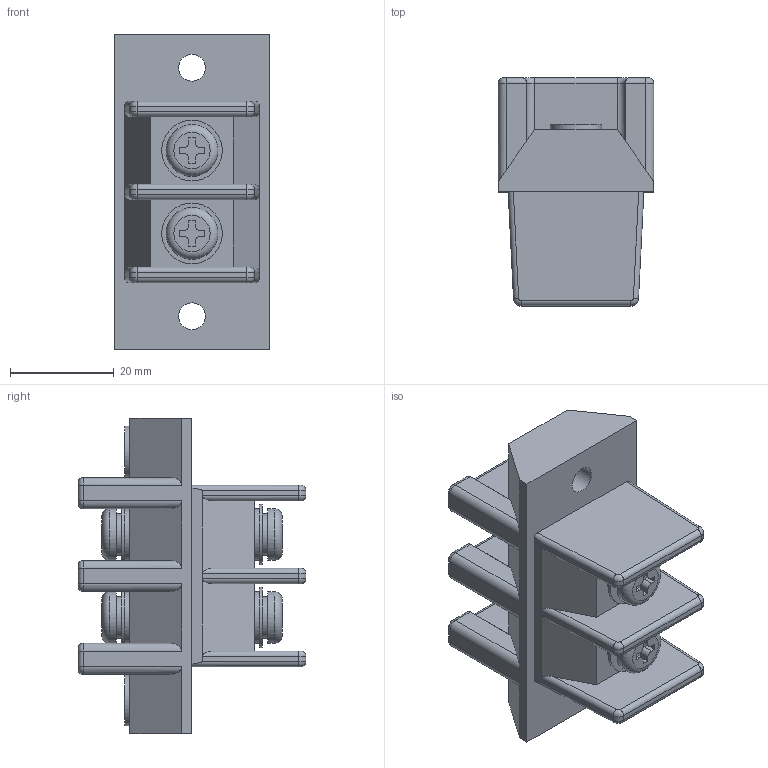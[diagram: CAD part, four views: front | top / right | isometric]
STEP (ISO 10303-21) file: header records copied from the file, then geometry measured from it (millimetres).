
FILE_DESCRIPTION(/* description */ ('Alibre Inc.'),/* implementation_level */ '2;1');
FILE_NAME(/* name */ 'export-F8BCF614-CD4F-4DC3-8470-32D440F0FA2D',/* time_stamp */ '2025-02-21T11:49:37+09:00',/* author */ (''),/* organization */ (''),/* preprocessor_version */ 'ST-DEVELOPER v17',/* originating_system */ 'Alibre',/* authorisation */ '');
FILE_SCHEMA (('CONFIG_CONTROL_DESIGN'));
Length unit declared in the file: millimetre
Bounding box: 30 x 44 x 61 mm (x, y, z)
Volume: 35070.3 mm3; surface area: 12922.4 mm2
Topology: 1 solids, 7 shells, 313 faces, 726 edges, 450 vertices
Faces by surface type: plane 143, cylinder 122, torus 40, cone 8
Full cylindrical faces by diameter (mm): 4.4 x4, 4.6 x4, 5 x6, 5.2 x2, 8 x4, 9.9 x6, 10 x4, 11.7 x4
Entity records: 8442 total; most frequent: CARTESIAN_POINT 1547, ORIENTED_EDGE 1348, DIRECTION 1341, EDGE_CURVE 674, AXIS2_PLACEMENT_3D 571, VERTEX_POINT 444, EDGE_LOOP 394, FACE_BOUND 394
